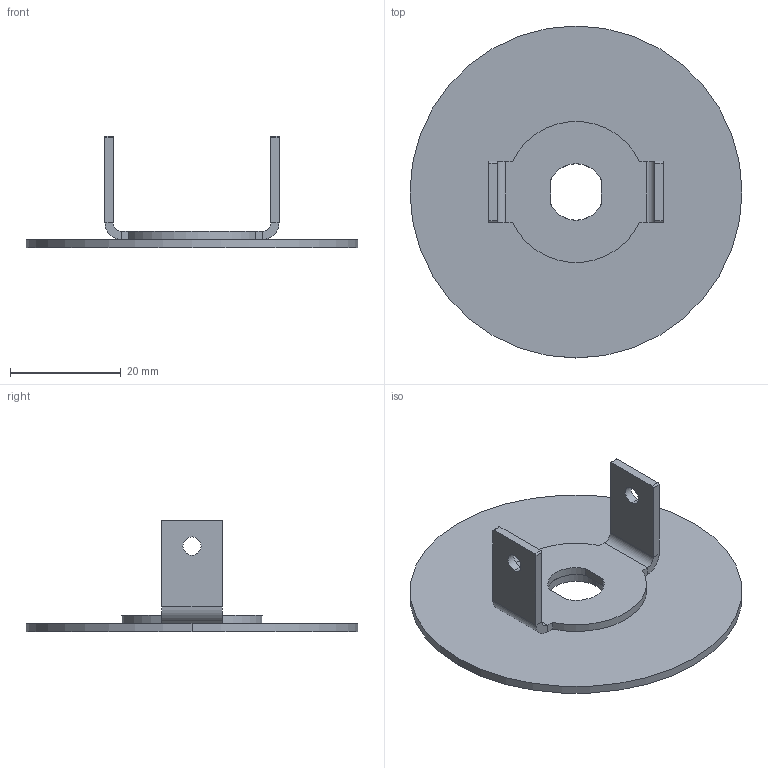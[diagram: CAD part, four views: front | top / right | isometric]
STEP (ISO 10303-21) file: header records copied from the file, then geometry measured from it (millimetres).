
FILE_DESCRIPTION (( 'STEP AP214' ), '1' );
FILE_NAME ('Bowl under the TUBE IN.STEP', '2023-08-11T13:58:53', ( '' ), ( '' ), 'SwSTEP 2.0', 'SolidWorks 2018', '' );
FILE_SCHEMA (( 'AUTOMOTIVE_DESIGN' ));
Length unit declared in the file: millimetre
Products named in the file (1): Bowl under the TUBE IN
Bounding box: 60 x 60 x 20.17 mm (x, y, z)
Volume: 5386.7 mm3; surface area: 7832.7 mm2
Topology: 2 solids, 2 shells, 44 faces, 104 edges, 64 vertices
Faces by surface type: plane 24, cylinder 20
Entity records: 1319 total; most frequent: DIRECTION 234, CARTESIAN_POINT 213, ORIENTED_EDGE 208, EDGE_CURVE 104, AXIS2_PLACEMENT_3D 85, VECTOR 64, LINE 64, VERTEX_POINT 64
